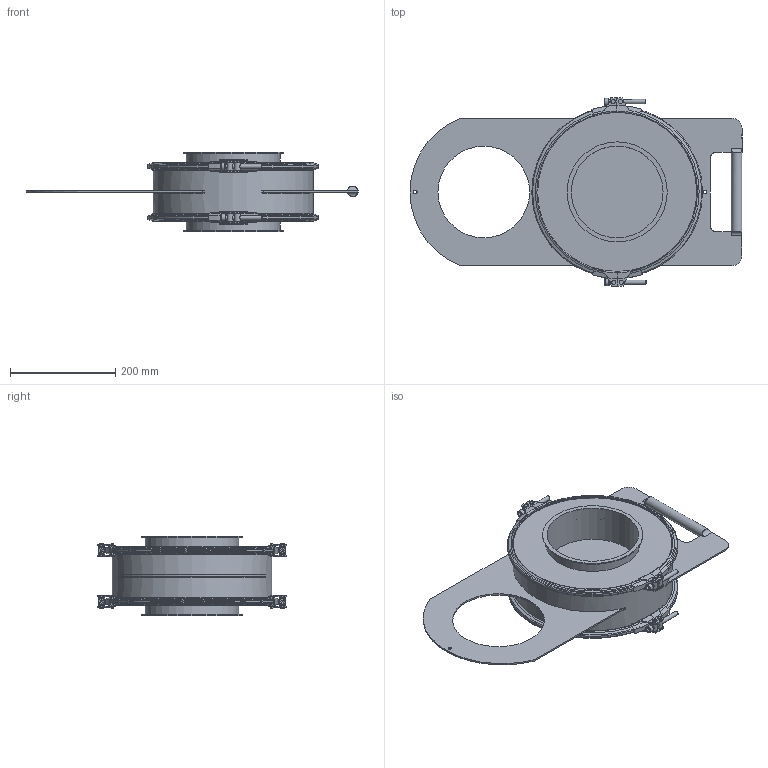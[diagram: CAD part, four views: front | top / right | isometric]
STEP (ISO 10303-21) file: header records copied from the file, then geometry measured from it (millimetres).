
FILE_DESCRIPTION((''),'2;1');
FILE_NAME('U:\Wolfgang\Marcel-3D\fertig\Kapitel 9\1721081.stp','2011-10-11T12:54:50',('iwienholt'),(''),'Autodesk Inventor 2010','Autodesk Inventor 2010','');
FILE_SCHEMA(('AUTOMOTIVE_DESIGN { 1 0 10303 214 1 1 1 1 }'));
Length unit declared in the file: millimetre
Products named in the file (10): 1721081; Rohr DN175; Schieber DN175; 3022055; 3022055-1; Verschluss b=324; Verschlussrolle; VerschlussrolleGewinde; ISO 4762 M8 x 70; 3022055-Dichtmasse
Assembly tree (17 placements, depth 3):
  1721081
    Rohr DN175
    Schieber DN175
    3022055  x2
      3022055-1
      Verschluss b=324
      Verschlussrolle
      VerschlussrolleGewinde
      ISO 4762 M8 x 70
      3022055-Dichtmasse
Bounding box: 630 x 357.99 x 150 mm (x, y, z)
Volume: 1429712.9 mm3; surface area: 1099644.9 mm2
Topology: 28 solids, 28 shells, 870 faces, 2306 edges, 1522 vertices
Faces by surface type: cylinder 269, plane 246, bspline 175, cone 144, torus 36
Full cylindrical faces by diameter (mm): 5 x16, 6 x4, 8 x20, 12 x8, 13 x4, 20 x1, 174 x3, 178 x4, 190 x1, 299 x1, 302 x2, 303 x1, 315 x1, 320 x2
Entity records: 7259 total; most frequent: CARTESIAN_POINT 2389, DIRECTION 978, ORIENTED_EDGE 890, EDGE_CURVE 445, AXIS2_PLACEMENT_3D 392, VERTEX_POINT 317, EDGE_LOOP 274, FACE_OUTER_BOUND 199
